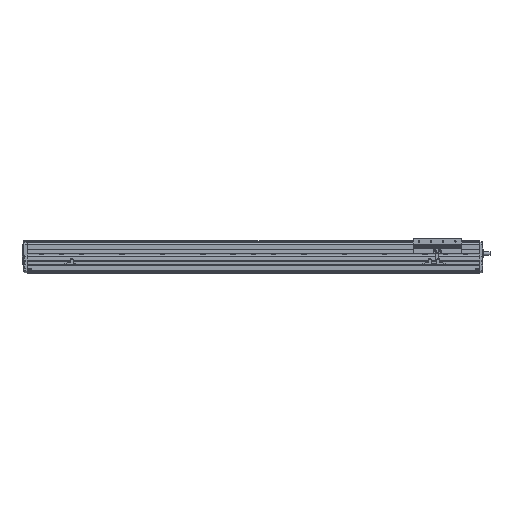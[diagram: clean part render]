
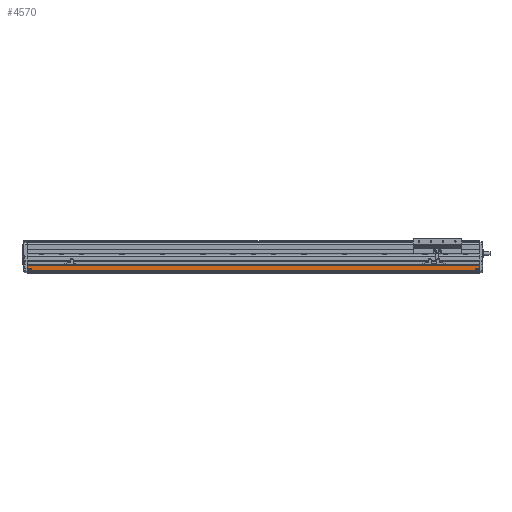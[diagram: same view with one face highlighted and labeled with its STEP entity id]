
A CAD part, left-side view. The second image highlights one B-rep face of the part: STEP entity #4570.
In plain terms, the highlighted planar face has unit normal (-1, 0, 0).
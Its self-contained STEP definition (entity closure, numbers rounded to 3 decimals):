
#4570=ADVANCED_FACE('',(#10577,#10578,#10579),#10580,.F.);
#10577=FACE_BOUND('',#19029,.T.);
#10578=FACE_BOUND('',#19030,.T.);
#10579=FACE_OUTER_BOUND('',#19031,.T.);
#10580=PLANE('',#19032);
#19029=EDGE_LOOP('',(#32735,#32736));
#19030=EDGE_LOOP('',(#32737,#32738));
#19031=EDGE_LOOP('',(#32739,#32740,#32741,#32742));
#19032=AXIS2_PLACEMENT_3D('',#32743,#32744,#32745);
#32735=ORIENTED_EDGE('',*,*,#49787,.F.);
#32736=ORIENTED_EDGE('',*,*,#50835,.F.);
#32737=ORIENTED_EDGE('',*,*,#51862,.F.);
#32738=ORIENTED_EDGE('',*,*,#51863,.F.);
#32739=ORIENTED_EDGE('',*,*,#51277,.F.);
#32740=ORIENTED_EDGE('',*,*,#48129,.F.);
#32741=ORIENTED_EDGE('',*,*,#51169,.F.);
#32742=ORIENTED_EDGE('',*,*,#51864,.T.);
#32743=CARTESIAN_POINT('',(-378.5,692.222,-35.942));
#32744=DIRECTION('',(1.,0.,0.));
#32745=DIRECTION('',(0.,0.,1.));
#48129=EDGE_CURVE('',#57627,#57623,#57629,.T.);
#49787=EDGE_CURVE('',#60443,#60445,#60446,.T.);
#50835=EDGE_CURVE('',#60445,#60443,#62144,.T.);
#51169=EDGE_CURVE('',#62669,#57627,#62671,.T.);
#51277=EDGE_CURVE('',#57623,#62844,#62845,.T.);
#51862=EDGE_CURVE('',#63745,#63746,#63747,.T.);
#51863=EDGE_CURVE('',#63746,#63745,#63748,.T.);
#51864=EDGE_CURVE('',#62669,#62844,#63749,.T.);
#57623=VERTEX_POINT('',#71168);
#57627=VERTEX_POINT('',#71173);
#57629=LINE('',#71175,#71176);
#60443=VERTEX_POINT('',#75360);
#60445=VERTEX_POINT('',#75363);
#60446=CIRCLE('',#75364,3.25);
#62144=CIRCLE('',#77974,3.25);
#62669=VERTEX_POINT('',#78723);
#62671=LINE('',#78725,#78726);
#62844=VERTEX_POINT('',#78972);
#62845=LINE('',#78973,#78974);
#63745=VERTEX_POINT('',#80253);
#63746=VERTEX_POINT('',#80254);
#63747=CIRCLE('',#80255,3.25);
#63748=CIRCLE('',#80256,3.25);
#63749=LINE('',#80257,#80258);
#71168=CARTESIAN_POINT('',(-378.5,-427.778,-29.02));
#71173=CARTESIAN_POINT('',(-378.5,692.222,-29.02));
#71175=CARTESIAN_POINT('',(-378.5,692.222,-29.02));
#71176=VECTOR('',#89303,10.0);
#75360=CARTESIAN_POINT('',(-378.5,-424.028,-39.));
#75363=CARTESIAN_POINT('',(-378.5,-417.528,-39.));
#75364=AXIS2_PLACEMENT_3D('',#91399,#91400,#91401);
#77974=AXIS2_PLACEMENT_3D('',#92658,#92659,#92660);
#78723=CARTESIAN_POINT('',(-378.5,692.222,-42.864));
#78725=CARTESIAN_POINT('',(-378.5,692.222,-42.864));
#78726=VECTOR('',#93062,10.0);
#78972=CARTESIAN_POINT('',(-378.5,-427.778,-42.864));
#78973=CARTESIAN_POINT('',(-378.5,-427.778,-42.864));
#78974=VECTOR('',#93190,10.0);
#80253=CARTESIAN_POINT('',(-378.5,688.472,-39.));
#80254=CARTESIAN_POINT('',(-378.5,681.972,-39.));
#80255=AXIS2_PLACEMENT_3D('',#93894,#93895,#93896);
#80256=AXIS2_PLACEMENT_3D('',#93897,#93898,#93899);
#80257=CARTESIAN_POINT('',(-378.5,692.222,-42.864));
#80258=VECTOR('',#93900,10.0);
#89303=DIRECTION('',(0.,-1.0,0.));
#91399=CARTESIAN_POINT('',(-378.5,-420.778,-39.));
#91400=DIRECTION('',(-1.,0.,0.));
#91401=DIRECTION('',(0.,-1.0,0.));
#92658=CARTESIAN_POINT('',(-378.5,-420.778,-39.));
#92659=DIRECTION('',(-1.,0.,0.));
#92660=DIRECTION('',(0.,-1.0,0.));
#93062=DIRECTION('',(0.,0.,1.));
#93190=DIRECTION('',(0.,0.,-1.));
#93894=CARTESIAN_POINT('',(-378.5,685.222,-39.));
#93895=DIRECTION('',(-1.,0.,0.));
#93896=DIRECTION('',(0.,1.0,0.));
#93897=CARTESIAN_POINT('',(-378.5,685.222,-39.));
#93898=DIRECTION('',(-1.,0.,0.));
#93899=DIRECTION('',(0.,1.0,0.));
#93900=DIRECTION('',(0.,-1.0,0.));
